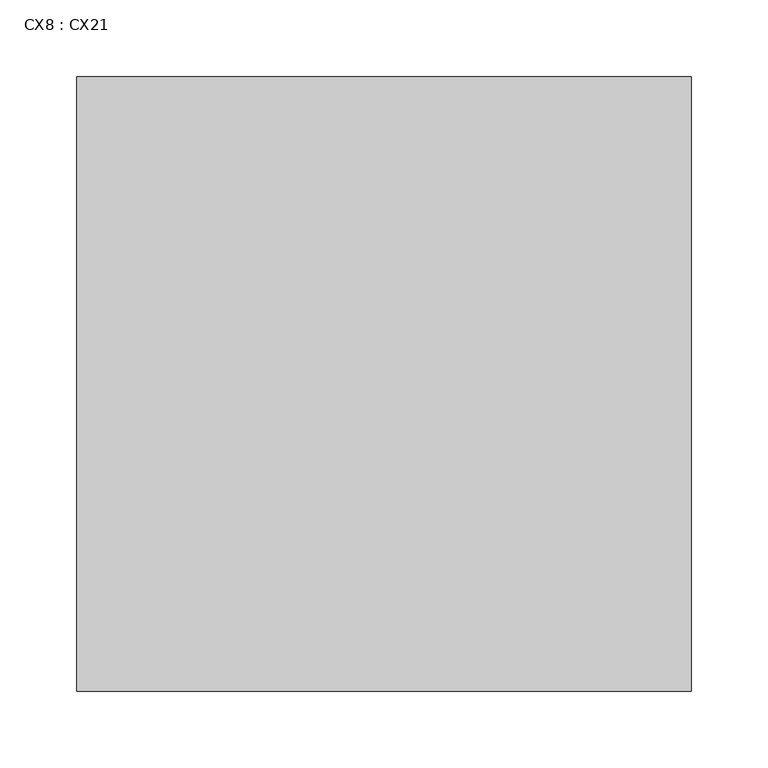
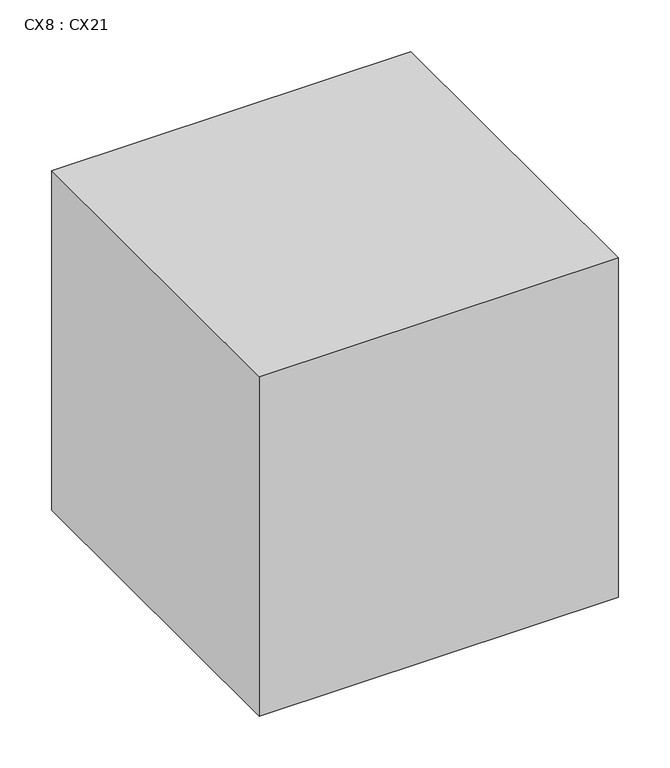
"""IFC4 building model written with IfcOpenShell, lengths in millimetres: proxy geometry, CX8 : CX21."""

from ifc_helpers import new_model, si_unit, frame, origin, place, context, project, spatial, polyline, outline, extrude, source, transform, mapped, element, save


def cx8_cx21_344c0f7f(model_context):
    return source(origin(), model_context, "Body", "SweptSolid", [
        extrude(outline(polyline([(8033.5846511, 14155.0121745), (8033.5846511, 13755.0121745), (7633.5846511, 13755.0121745), (7633.5846511, 14155.0121745), (8033.5846511, 14155.0121745)])), frame((0.0, 0.0, 1130.0), z_axis=(0.0, 0.0, 1.0), x_axis=(1.0, 0.0, 0.0)), (0.0, 0.0, 1.0), 400.0),
    ])


if __name__ == "__main__":
    model = new_model("IFC4")
    model_context = context("Model", 3, world=origin())
    ifc_project = project(units=[si_unit("LENGTHUNIT", "METRE", prefix="MILLI")], contexts=[model_context])
    site = spatial("IfcSite", under=ifc_project)
    building = spatial("IfcBuilding", under=site)
    placement = place(None, origin())
    cx8_cx21_shape = cx8_cx21_344c0f7f(model_context)
    element("IfcBuildingElementProxy", 1, Name="CX8 : CX21", ObjectType="CX8 : CX21", at=placement, inside=building, context=model_context, shape_type="MappedRepresentation", body=[
        mapped(cx8_cx21_shape, transform((0.0, 0.0, 0.0), x_axis=(1.0, 0.0, 0.0), y_axis=(0.0, 1.0, 0.0), z_axis=(0.0, 0.0, 1.0))),
    ])
    save(model, "model.ifc")
